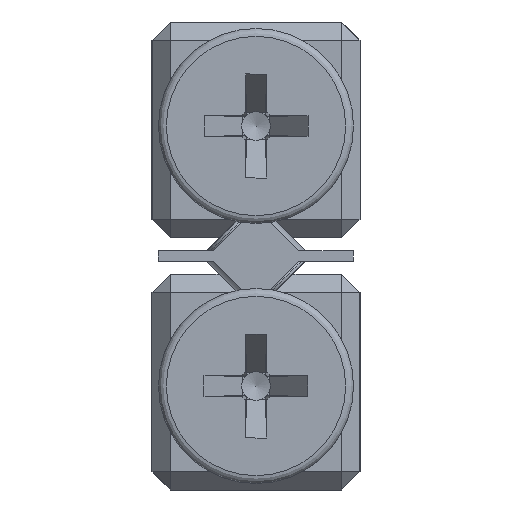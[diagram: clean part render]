
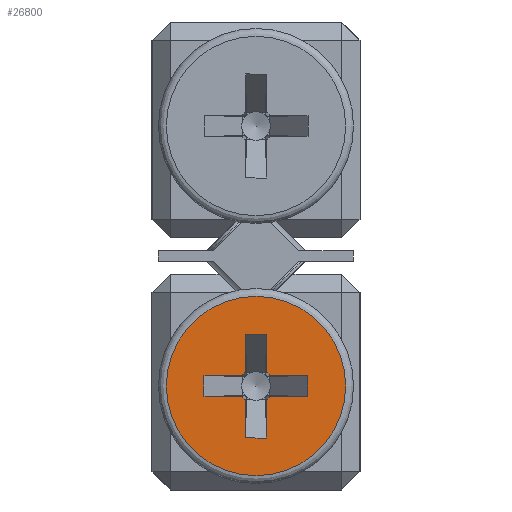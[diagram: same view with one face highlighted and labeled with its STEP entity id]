
A CAD part, left-side view. The second image highlights one B-rep face of the part: STEP entity #26800.
In plain terms, the highlighted planar face has unit normal (-1, 0, 0).
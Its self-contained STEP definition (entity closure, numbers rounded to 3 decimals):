
#30 = AXIS2_PLACEMENT_3D ( 'NONE', #781, #22506, #21888 ) ;
#87 = LINE ( 'NONE', #27006, #6251 ) ;
#781 = CARTESIAN_POINT ( 'NONE',  ( -127., 3.75, 4. ) ) ;
#829 = EDGE_CURVE ( 'NONE', #1495, #3864, #9741, .T. ) ;
#947 = VECTOR ( 'NONE', #22924, 1000. ) ;
#957 = LINE ( 'NONE', #10556, #10204 ) ;
#1062 = ORIENTED_EDGE ( 'NONE', *, *, #1530, .T. ) ;
#1495 = VERTEX_POINT ( 'NONE', #27625 ) ;
#1530 = EDGE_CURVE ( 'NONE', #4281, #22564, #18159, .T. ) ;
#1999 = ORIENTED_EDGE ( 'NONE', *, *, #8258, .T. ) ;
#2100 = ORIENTED_EDGE ( 'NONE', *, *, #829, .F. ) ;
#2466 = VERTEX_POINT ( 'NONE', #12870 ) ;
#2522 = DIRECTION ( 'NONE',  ( 0., 0., 1. ) ) ;
#2564 = VERTEX_POINT ( 'NONE', #6097 ) ;
#2603 = DIRECTION ( 'NONE',  ( 0., 0., 1. ) ) ;
#3053 = CARTESIAN_POINT ( 'NONE',  ( -127., -0.548, 4.4 ) ) ;
#3137 = CARTESIAN_POINT ( 'NONE',  ( -127., 0.4, 3.452 ) ) ;
#3307 = FACE_OUTER_BOUND ( 'NONE', #17261, .T. ) ;
#3347 = LINE ( 'NONE', #24779, #14550 ) ;
#3442 = CARTESIAN_POINT ( 'NONE',  ( -127., 0., 4. ) ) ;
#3488 = EDGE_CURVE ( 'NONE', #1495, #12755, #957, .T. ) ;
#3503 = CARTESIAN_POINT ( 'NONE',  ( -127., 0., 0.55 ) ) ;
#3836 = CARTESIAN_POINT ( 'NONE',  ( -127., 2., 4.4 ) ) ;
#3864 = VERTEX_POINT ( 'NONE', #14077 ) ;
#4281 = VERTEX_POINT ( 'NONE', #17567 ) ;
#4309 = LINE ( 'NONE', #6341, #8250 ) ;
#4379 = CARTESIAN_POINT ( 'NONE',  ( -127., 2., 4.4 ) ) ;
#4971 = DIRECTION ( 'NONE',  ( 0., 1., 0. ) ) ;
#5033 = CIRCLE ( 'NONE', #27196, 0.678 ) ;
#5229 = EDGE_CURVE ( 'NONE', #22326, #12755, #29368, .T. ) ;
#5439 = LINE ( 'NONE', #24670, #25921 ) ;
#5834 = DIRECTION ( 'NONE',  ( 0., 0., 1. ) ) ;
#6097 = CARTESIAN_POINT ( 'NONE',  ( -127., 0.4, 4.548 ) ) ;
#6118 = DIRECTION ( 'NONE',  ( 0., 0., -1. ) ) ;
#6251 = VECTOR ( 'NONE', #2603, 1000. ) ;
#6341 = CARTESIAN_POINT ( 'NONE',  ( -127., -2., 3.6 ) ) ;
#6800 = ORIENTED_EDGE ( 'NONE', *, *, #22460, .F. ) ;
#7075 = CARTESIAN_POINT ( 'NONE',  ( -127., 0.4, 6. ) ) ;
#7834 = LINE ( 'NONE', #22773, #947 ) ;
#7958 = CARTESIAN_POINT ( 'NONE',  ( -127., 0.548, 3.6 ) ) ;
#8250 = VECTOR ( 'NONE', #21147, 1000. ) ;
#8258 = EDGE_CURVE ( 'NONE', #25171, #2466, #4309, .T. ) ;
#8313 = AXIS2_PLACEMENT_3D ( 'NONE', #3442, #8789, #6118 ) ;
#8412 = DIRECTION ( 'NONE',  ( 0., -1., 0. ) ) ;
#8669 = ORIENTED_EDGE ( 'NONE', *, *, #15755, .F. ) ;
#8789 = DIRECTION ( 'NONE',  ( -1., 0., 0. ) ) ;
#8853 = VERTEX_POINT ( 'NONE', #30396 ) ;
#9741 = CIRCLE ( 'NONE', #27360, 0.678 ) ;
#9825 = CARTESIAN_POINT ( 'NONE',  ( -127., 0.4, 2. ) ) ;
#10204 = VECTOR ( 'NONE', #13985, 1000. ) ;
#10318 = EDGE_CURVE ( 'NONE', #21499, #19279, #15059, .T. ) ;
#10321 = CARTESIAN_POINT ( 'NONE',  ( -127., -0.4, 6. ) ) ;
#10556 = CARTESIAN_POINT ( 'NONE',  ( -127., -0.4, 6. ) ) ;
#10924 = AXIS2_PLACEMENT_3D ( 'NONE', #19680, #29296, #2522 ) ;
#10975 = CARTESIAN_POINT ( 'NONE',  ( -127., 0.548, 4.4 ) ) ;
#11550 = ORIENTED_EDGE ( 'NONE', *, *, #3488, .T. ) ;
#12584 = CIRCLE ( 'NONE', #22638, 0.678 ) ;
#12755 = VERTEX_POINT ( 'NONE', #17158 ) ;
#12807 = VERTEX_POINT ( 'NONE', #3137 ) ;
#12870 = CARTESIAN_POINT ( 'NONE',  ( -127., 2., 3.6 ) ) ;
#12941 = DIRECTION ( 'NONE',  ( 0., 1., 0. ) ) ;
#12948 = ORIENTED_EDGE ( 'NONE', *, *, #16935, .T. ) ;
#13025 = DIRECTION ( 'NONE',  ( -1., 0., 0. ) ) ;
#13397 = VERTEX_POINT ( 'NONE', #3503 ) ;
#13473 = EDGE_CURVE ( 'NONE', #28482, #29525, #7834, .T. ) ;
#13584 = VECTOR ( 'NONE', #31101, 1000. ) ;
#13911 = DIRECTION ( 'NONE',  ( 0., 0., 1. ) ) ;
#13958 = DIRECTION ( 'NONE',  ( 0., 0., -1. ) ) ;
#13985 = DIRECTION ( 'NONE',  ( 0., 0., -1. ) ) ;
#14077 = CARTESIAN_POINT ( 'NONE',  ( -127., -0.548, 3.6 ) ) ;
#14289 = CARTESIAN_POINT ( 'NONE',  ( -127., 0.4, 2. ) ) ;
#14550 = VECTOR ( 'NONE', #12941, 1000. ) ;
#14636 = FACE_BOUND ( 'NONE', #29512, .T. ) ;
#14850 = CARTESIAN_POINT ( 'NONE',  ( -127., -2., 4.4 ) ) ;
#15059 = LINE ( 'NONE', #19477, #27362 ) ;
#15687 = ORIENTED_EDGE ( 'NONE', *, *, #21286, .F. ) ;
#15704 = VECTOR ( 'NONE', #26446, 1000. ) ;
#15755 = EDGE_CURVE ( 'NONE', #28482, #28027, #5439, .T. ) ;
#16487 = CARTESIAN_POINT ( 'NONE',  ( -127., 0.4, 2. ) ) ;
#16809 = ORIENTED_EDGE ( 'NONE', *, *, #29217, .T. ) ;
#16935 = EDGE_CURVE ( 'NONE', #2564, #28027, #87, .T. ) ;
#17040 = ORIENTED_EDGE ( 'NONE', *, *, #17299, .T. ) ;
#17158 = CARTESIAN_POINT ( 'NONE',  ( -127., -0.4, 2. ) ) ;
#17261 = EDGE_LOOP ( 'NONE', ( #17040 ) ) ;
#17299 = EDGE_CURVE ( 'NONE', #13397, #13397, #18836, .T. ) ;
#17567 = CARTESIAN_POINT ( 'NONE',  ( -127., 2., 4.4 ) ) ;
#18159 = LINE ( 'NONE', #3836, #27916 ) ;
#18836 = CIRCLE ( 'NONE', #8313, 3.45 ) ;
#18865 = LINE ( 'NONE', #14289, #15704 ) ;
#18997 = DIRECTION ( 'NONE',  ( -1., 0., 0. ) ) ;
#19279 = VERTEX_POINT ( 'NONE', #14850 ) ;
#19477 = CARTESIAN_POINT ( 'NONE',  ( -127., 2., 4.4 ) ) ;
#19595 = ORIENTED_EDGE ( 'NONE', *, *, #13473, .T. ) ;
#19630 = DIRECTION ( 'NONE',  ( 0., -1., 0. ) ) ;
#19680 = CARTESIAN_POINT ( 'NONE',  ( -127., 0., 4. ) ) ;
#19688 = PLANE ( 'NONE',  #30 ) ;
#19795 = EDGE_CURVE ( 'NONE', #25171, #12807, #12584, .T. ) ;
#19846 = EDGE_CURVE ( 'NONE', #21499, #29525, #5033, .T. ) ;
#20013 = DIRECTION ( 'NONE',  ( -1., 0., 0. ) ) ;
#20178 = ORIENTED_EDGE ( 'NONE', *, *, #5229, .F. ) ;
#20182 = VECTOR ( 'NONE', #13911, 1000. ) ;
#20584 = ORIENTED_EDGE ( 'NONE', *, *, #10318, .T. ) ;
#21147 = DIRECTION ( 'NONE',  ( 0., 1., 0. ) ) ;
#21286 = EDGE_CURVE ( 'NONE', #8853, #19279, #21482, .T. ) ;
#21411 = ORIENTED_EDGE ( 'NONE', *, *, #19795, .F. ) ;
#21482 = LINE ( 'NONE', #30630, #20182 ) ;
#21499 = VERTEX_POINT ( 'NONE', #3053 ) ;
#21634 = ORIENTED_EDGE ( 'NONE', *, *, #25612, .T. ) ;
#21888 = DIRECTION ( 'NONE',  ( 0., 0., -1. ) ) ;
#22326 = VERTEX_POINT ( 'NONE', #16487 ) ;
#22460 = EDGE_CURVE ( 'NONE', #2564, #22564, #28630, .T. ) ;
#22506 = DIRECTION ( 'NONE',  ( 1., 0., 0. ) ) ;
#22564 = VERTEX_POINT ( 'NONE', #10975 ) ;
#22638 = AXIS2_PLACEMENT_3D ( 'NONE', #25169, #13025, #25478 ) ;
#22773 = CARTESIAN_POINT ( 'NONE',  ( -127., -0.4, 6. ) ) ;
#22924 = DIRECTION ( 'NONE',  ( 0., 0., -1. ) ) ;
#22944 = CARTESIAN_POINT ( 'NONE',  ( -127., 0., 4. ) ) ;
#23700 = EDGE_CURVE ( 'NONE', #4281, #2466, #28163, .T. ) ;
#24670 = CARTESIAN_POINT ( 'NONE',  ( -127., -0.4, 6. ) ) ;
#24779 = CARTESIAN_POINT ( 'NONE',  ( -127., -2., 3.6 ) ) ;
#24913 = CARTESIAN_POINT ( 'NONE',  ( -127., 0., 4. ) ) ;
#25169 = CARTESIAN_POINT ( 'NONE',  ( -127., 0., 4. ) ) ;
#25171 = VERTEX_POINT ( 'NONE', #7958 ) ;
#25478 = DIRECTION ( 'NONE',  ( 0., 0., 1. ) ) ;
#25516 = ORIENTED_EDGE ( 'NONE', *, *, #23700, .F. ) ;
#25612 = EDGE_CURVE ( 'NONE', #8853, #3864, #3347, .T. ) ;
#25921 = VECTOR ( 'NONE', #4971, 1000. ) ;
#26258 = CARTESIAN_POINT ( 'NONE',  ( -127., -0.4, 4.548 ) ) ;
#26446 = DIRECTION ( 'NONE',  ( 0., 0., 1. ) ) ;
#26647 = ORIENTED_EDGE ( 'NONE', *, *, #19846, .F. ) ;
#26800 = ADVANCED_FACE ( 'NONE', ( #3307, #14636 ), #19688, .F. ) ;
#27006 = CARTESIAN_POINT ( 'NONE',  ( -127., 0.4, 2. ) ) ;
#27196 = AXIS2_PLACEMENT_3D ( 'NONE', #22944, #18997, #31135 ) ;
#27360 = AXIS2_PLACEMENT_3D ( 'NONE', #24913, #20013, #5834 ) ;
#27362 = VECTOR ( 'NONE', #19630, 1000. ) ;
#27625 = CARTESIAN_POINT ( 'NONE',  ( -127., -0.4, 3.452 ) ) ;
#27916 = VECTOR ( 'NONE', #8412, 1000. ) ;
#28027 = VERTEX_POINT ( 'NONE', #7075 ) ;
#28094 = VECTOR ( 'NONE', #13958, 1000. ) ;
#28163 = LINE ( 'NONE', #4379, #28094 ) ;
#28482 = VERTEX_POINT ( 'NONE', #10321 ) ;
#28630 = CIRCLE ( 'NONE', #10924, 0.678 ) ;
#29217 = EDGE_CURVE ( 'NONE', #22326, #12807, #18865, .T. ) ;
#29296 = DIRECTION ( 'NONE',  ( -1., 0., 0. ) ) ;
#29368 = LINE ( 'NONE', #9825, #13584 ) ;
#29512 = EDGE_LOOP ( 'NONE', ( #2100, #11550, #20178, #16809, #21411, #1999, #25516, #1062, #6800, #12948, #8669, #19595, #26647, #20584, #15687, #21634 ) ) ;
#29525 = VERTEX_POINT ( 'NONE', #26258 ) ;
#30396 = CARTESIAN_POINT ( 'NONE',  ( -127., -2., 3.6 ) ) ;
#30630 = CARTESIAN_POINT ( 'NONE',  ( -127., -2., 3.6 ) ) ;
#31101 = DIRECTION ( 'NONE',  ( 0., -1., 0. ) ) ;
#31135 = DIRECTION ( 'NONE',  ( 0., 0., 1. ) ) ;
